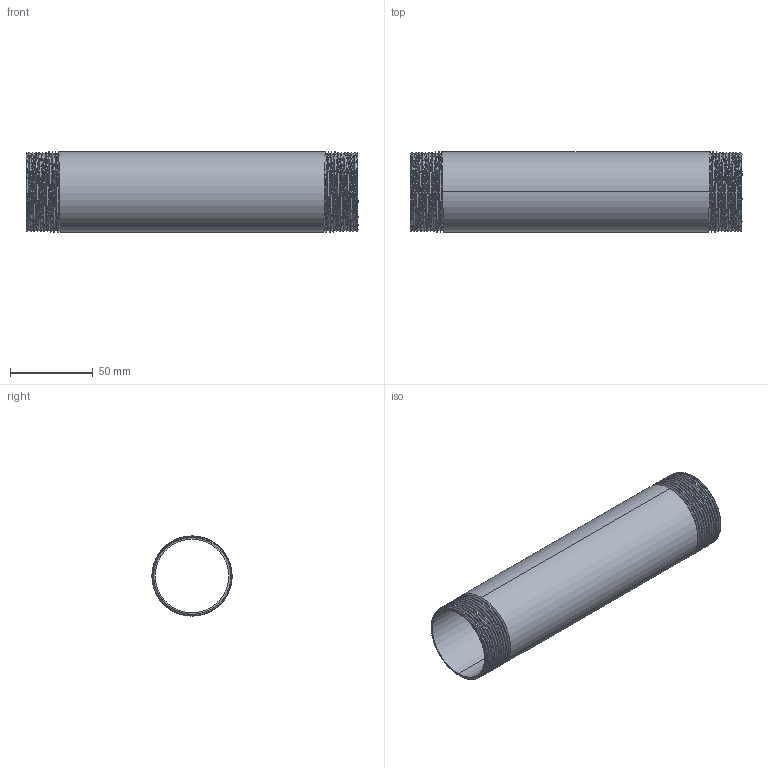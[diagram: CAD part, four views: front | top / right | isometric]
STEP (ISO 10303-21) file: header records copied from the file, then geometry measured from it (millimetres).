
FILE_DESCRIPTION (( 'STEP AP203' ), '1' );
FILE_NAME ('3D_R210_1 1-2x200_17185906.STEP', '2024-08-16T13:58:05', ( '' ), ( '' ), 'SwSTEP 2.0', 'SolidWorks 2024', '' );
FILE_SCHEMA (( 'CONFIG_CONTROL_DESIGN' ));
Length unit declared in the file: millimetre
Products named in the file (1): 3D_R210_1 1-2x200_17185906
Bounding box: 200 x 48.29 x 48.3 mm (x, y, z)
Volume: 54500.8 mm3; surface area: 61757.8 mm2
Topology: 1 solids, 1 shells, 56 faces, 156 edges, 102 vertices
Faces by surface type: cone 42, bspline 6, cylinder 4, plane 4
Entity records: 9909 total; most frequent: CARTESIAN_POINT 8605, ORIENTED_EDGE 312, DIRECTION 172, EDGE_CURVE 156, VERTEX_POINT 102, B_SPLINE_CURVE_WITH_KNOTS 88, AXIS2_PLACEMENT_3D 61, EDGE_LOOP 58
